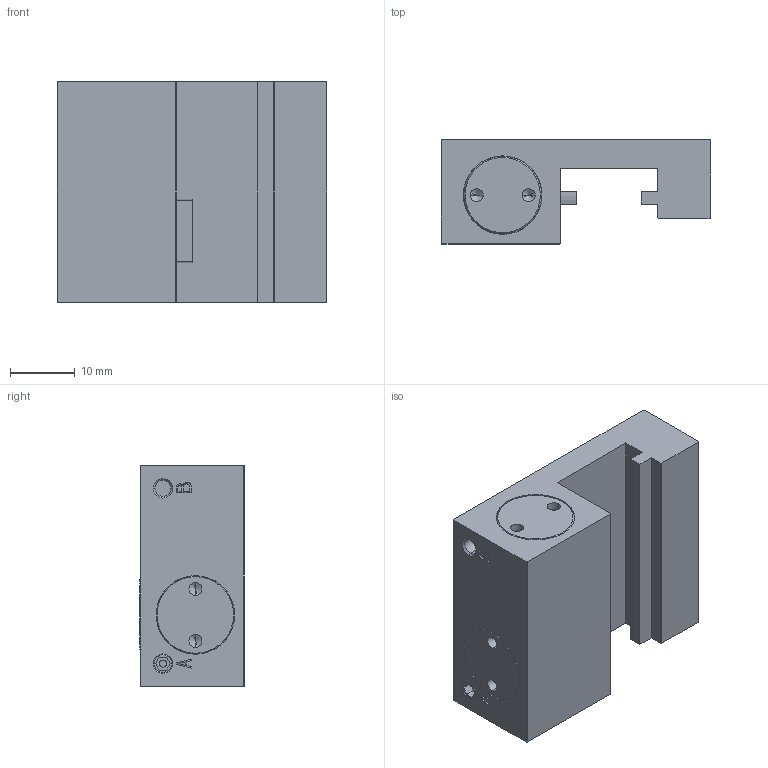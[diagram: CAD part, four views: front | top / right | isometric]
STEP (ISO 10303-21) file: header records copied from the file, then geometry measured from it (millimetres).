
FILE_DESCRIPTION( ( '' ), '1' );
FILE_NAME( 'E:/04 嬴檜蠱滌/0404 ZIMMER/040414 ZIMMER CAD download/MCP/MCP1502F---.stp', '2020-04-16T10:02:33', ( '' ), ( '' ), ' ', ' ', ' ' );
FILE_SCHEMA( ( 'automotive_design' ) );
Length unit declared in the file: millimetre
Products named in the file (1): 1
Bounding box: 41.5 x 16.05 x 34 mm (x, y, z)
Volume: 15677.7 mm3; surface area: 6000.3 mm2
Topology: 1 solids, 1 shells, 121 faces, 286 edges, 180 vertices
Faces by surface type: plane 67, cylinder 32, cone 22
Entity records: 6686 total; most frequent: DIRECTION 602, STYLED_ITEM 580, PRESENTATION_STYLE_ASSIGNMENT 580, CARTESIAN_POINT 580, COLOUR_RGB 580, ORIENTED_EDGE 556, EDGE_CURVE 278, CURVE_STYLE 278
